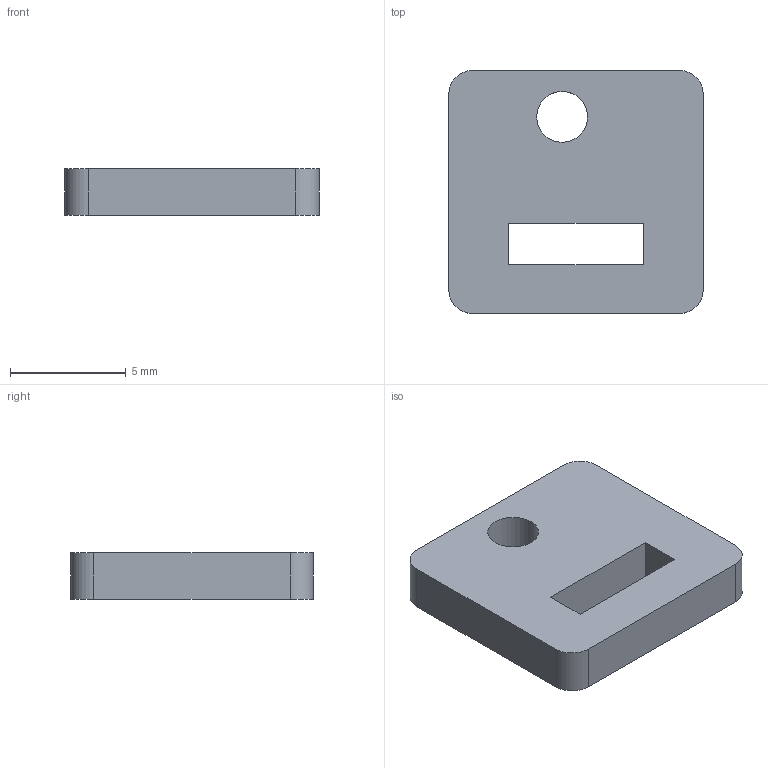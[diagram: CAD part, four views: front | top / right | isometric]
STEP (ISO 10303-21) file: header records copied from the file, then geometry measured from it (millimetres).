
FILE_DESCRIPTION(('Open CASCADE Model'),'2;1');
FILE_NAME('Open CASCADE Shape Model','2026-09-16T15:34:22',('Author'),( 'Open CASCADE'),'Open CASCADE STEP processor 7.7','Open CASCADE 7.7' ,'Unknown');
FILE_SCHEMA(('AUTOMOTIVE_DESIGN { 1 0 10303 214 1 1 1 1 }'));
Length unit declared in the file: millimetre
Products named in the file (1): COMPOUND
Bounding box: 11 x 10.5 x 2 mm (x, y, z)
Volume: 200.8 mm3; surface area: 327.6 mm2
Topology: 1 solids, 1 shells, 15 faces, 39 edges, 26 vertices
Faces by surface type: plane 10, cylinder 5
Full cylindrical faces by diameter (mm): 2.2 x1
Entity records: 972 total; most frequent: CARTESIAN_POINT 175, DIRECTION 143, LINE 81, VECTOR 81, ORIENTED_EDGE 78, PCURVE 78, DEFINITIONAL_REPRESENTATION 78, EDGE_CURVE 39
